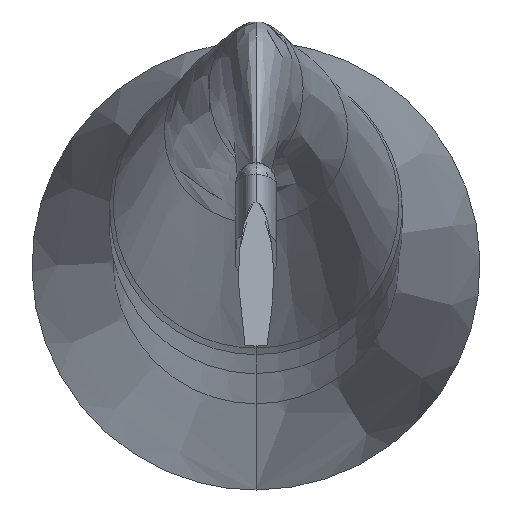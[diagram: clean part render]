
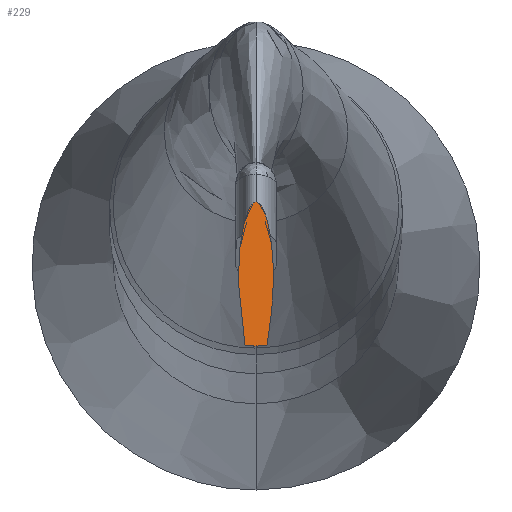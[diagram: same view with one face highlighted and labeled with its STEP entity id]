
A CAD part, left-side view. The second image highlights one B-rep face of the part: STEP entity #229.
In plain terms, the highlighted free-form (B-spline) face has degree [3, 3] with [6, 4] control points.
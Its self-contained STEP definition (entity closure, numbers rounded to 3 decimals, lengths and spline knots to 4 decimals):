
#229=ADVANCED_FACE('',(#291),#258,.F.);
#258=B_SPLINE_SURFACE_WITH_KNOTS('',3,3,((#71318,#71319,#71320,#71321),
(#71322,#71323,#71324,#71325),(#71326,#71327,#71328,#71329),(#71330,#71331,
#71332,#71333),(#71334,#71335,#71336,#71337),(#71338,#71339,#71340,#71341)),
 .UNSPECIFIED.,.F.,.F.,.F.,(4,2,4),(4,4),(0.,0.5,1.),(0.,1.),
 .UNSPECIFIED.);
#291=FACE_OUTER_BOUND('',#324,.T.);
#324=EDGE_LOOP('',(#432,#433,#434,#435));
#432=ORIENTED_EDGE('',*,*,#568,.T.);
#433=ORIENTED_EDGE('',*,*,#573,.F.);
#434=ORIENTED_EDGE('',*,*,#574,.F.);
#435=ORIENTED_EDGE('',*,*,#557,.T.);
#499=VERTEX_POINT('',#7171);
#500=VERTEX_POINT('',#7176);
#506=VERTEX_POINT('',#39152);
#510=VERTEX_POINT('',#71299);
#557=EDGE_CURVE('',#500,#499,#625,.T.);
#568=EDGE_CURVE('',#499,#506,#636,.T.);
#573=EDGE_CURVE('',#510,#506,#641,.T.);
#574=EDGE_CURVE('',#500,#510,#642,.T.);
#625=B_SPLINE_CURVE_WITH_KNOTS('',3,(#7172,#7173,#7174,#7175),
 .UNSPECIFIED.,.F.,.F.,(4,4),(0.,1.),.UNSPECIFIED.);
#636=B_SPLINE_CURVE_WITH_KNOTS('',3,(#39154,#39155,#39156,#39157),
 .UNSPECIFIED.,.F.,.F.,(4,4),(0.,1.),.UNSPECIFIED.);
#641=B_SPLINE_CURVE_WITH_KNOTS('',3,(#71279,#71280,#71281,#71282,#71283,
#71284,#71285,#71286,#71287,#71288,#71289,#71290,#71291,#71292,#71293,#71294,
#71295,#71296,#71297,#71298),.UNSPECIFIED.,.F.,.F.,(4,2,2,2,2,2,2,2,2,4),
(0.,0.0156,0.0313,0.0625,0.125,
0.25,0.375,0.5,0.75,
1.),.UNSPECIFIED.);
#642=B_SPLINE_CURVE_WITH_KNOTS('',3,(#71300,#71301,#71302,#71303,#71304,
#71305,#71306,#71307,#71308,#71309,#71310,#71311,#71312,#71313,#71314,#71315,
#71316,#71317),.UNSPECIFIED.,.F.,.F.,(4,2,2,2,2,2,2,2,4),(0.,0.25,
0.5,0.625,0.75,0.875,
0.9375,0.9688,1.),.UNSPECIFIED.);
#7171=CARTESIAN_POINT('',(171.2809,0.,-3.2681));
#7172=CARTESIAN_POINT('',(171.2833,0.3755,-3.2465));
#7173=CARTESIAN_POINT('',(171.2817,0.2508,-3.2609));
#7174=CARTESIAN_POINT('',(171.2809,0.1256,-3.2681));
#7175=CARTESIAN_POINT('',(171.2809,0.,-3.2681));
#7176=CARTESIAN_POINT('',(171.2832,0.3755,-3.2465));
#39152=CARTESIAN_POINT('',(171.2832,-0.3755,-3.2465));
#39154=CARTESIAN_POINT('',(171.2809,0.,-3.2681));
#39155=CARTESIAN_POINT('',(171.2809,-0.1256,-3.2681));
#39156=CARTESIAN_POINT('',(171.2817,-0.2508,-3.2609));
#39157=CARTESIAN_POINT('',(171.2833,-0.3755,-3.2465));
#71279=CARTESIAN_POINT('',(171.8355,0.,1.657));
#71280=CARTESIAN_POINT('',(171.835,-0.027,1.6529));
#71281=CARTESIAN_POINT('',(171.8341,-0.0528,1.6446));
#71282=CARTESIAN_POINT('',(171.8314,-0.1014,1.6199));
#71283=CARTESIAN_POINT('',(171.8295,-0.1218,1.6025));
#71284=CARTESIAN_POINT('',(171.8229,-0.1769,1.5428));
#71285=CARTESIAN_POINT('',(171.8179,-0.2046,1.4973));
#71286=CARTESIAN_POINT('',(171.802,-0.2771,1.3537));
#71287=CARTESIAN_POINT('',(171.7909,-0.3132,1.2535));
#71288=CARTESIAN_POINT('',(171.7571,-0.4094,0.9504));
#71289=CARTESIAN_POINT('',(171.7337,-0.4524,0.7412));
#71290=CARTESIAN_POINT('',(171.6867,-0.5233,0.3231));
#71291=CARTESIAN_POINT('',(171.6631,-0.5493,0.1138));
#71292=CARTESIAN_POINT('',(171.6157,-0.5878,-0.305));
#71293=CARTESIAN_POINT('',(171.592,-0.6017,-0.5146));
#71294=CARTESIAN_POINT('',(171.5207,-0.6155,-1.1441));
#71295=CARTESIAN_POINT('',(171.473,-0.5888,-1.5647));
#71296=CARTESIAN_POINT('',(171.3779,-0.4973,-2.407));
#71297=CARTESIAN_POINT('',(171.3306,-0.4367,-2.827));
#71298=CARTESIAN_POINT('',(171.2833,-0.3756,-3.2465));
#71299=CARTESIAN_POINT('',(171.8354,0.,1.657));
#71300=CARTESIAN_POINT('',(171.2833,0.3756,-3.2465));
#71301=CARTESIAN_POINT('',(171.3304,0.4364,-2.8289));
#71302=CARTESIAN_POINT('',(171.3774,0.4967,-2.4113));
#71303=CARTESIAN_POINT('',(171.472,0.588,-1.5736));
#71304=CARTESIAN_POINT('',(171.5196,0.6153,-1.1533));
#71305=CARTESIAN_POINT('',(171.5916,0.602,-0.5182));
#71306=CARTESIAN_POINT('',(171.6156,0.5879,-0.3061));
#71307=CARTESIAN_POINT('',(171.6634,0.5491,0.1163));
#71308=CARTESIAN_POINT('',(171.6871,0.5227,0.327));
#71309=CARTESIAN_POINT('',(171.7342,0.4516,0.7454));
#71310=CARTESIAN_POINT('',(171.7575,0.4086,0.954));
#71311=CARTESIAN_POINT('',(171.7913,0.3118,1.2574));
#71312=CARTESIAN_POINT('',(171.8024,0.2755,1.3576));
#71313=CARTESIAN_POINT('',(171.8181,0.2032,1.4998));
#71314=CARTESIAN_POINT('',(171.8231,0.1754,1.5447));
#71315=CARTESIAN_POINT('',(171.8317,0.1025,1.6231));
#71316=CARTESIAN_POINT('',(171.8346,0.0534,1.6488));
#71317=CARTESIAN_POINT('',(171.8355,0.,1.657));
#71318=CARTESIAN_POINT('',(170.9856,0.7309,-5.8754));
#71319=CARTESIAN_POINT('',(170.9854,0.2845,-5.8809));
#71320=CARTESIAN_POINT('',(170.9849,-0.1618,-5.8863));
#71321=CARTESIAN_POINT('',(170.9843,-0.6081,-5.8917));
#71322=CARTESIAN_POINT('',(171.1356,0.7147,-4.559));
#71323=CARTESIAN_POINT('',(171.1352,0.2684,-4.5645));
#71324=CARTESIAN_POINT('',(171.1344,-0.178,-4.5699));
#71325=CARTESIAN_POINT('',(171.1338,-0.6243,-4.5753));
#71326=CARTESIAN_POINT('',(171.2836,0.6985,-3.2424));
#71327=CARTESIAN_POINT('',(171.2831,0.2522,-3.2479));
#71328=CARTESIAN_POINT('',(171.2823,-0.1941,-3.2533));
#71329=CARTESIAN_POINT('',(171.2818,-0.6405,-3.2587));
#71330=CARTESIAN_POINT('',(171.5808,0.6662,-0.6094));
#71331=CARTESIAN_POINT('',(171.5803,0.2199,-0.6148));
#71332=CARTESIAN_POINT('',(171.5795,-0.2265,-0.6202));
#71333=CARTESIAN_POINT('',(171.5789,-0.6728,-0.6256));
#71334=CARTESIAN_POINT('',(171.7318,0.65,0.7069));
#71335=CARTESIAN_POINT('',(171.7319,0.2037,0.7014));
#71336=CARTESIAN_POINT('',(171.731,-0.2426,0.696));
#71337=CARTESIAN_POINT('',(171.7298,-0.689,0.6907));
#71338=CARTESIAN_POINT('',(171.8753,0.6338,2.024));
#71339=CARTESIAN_POINT('',(171.8751,0.1875,2.0185));
#71340=CARTESIAN_POINT('',(171.8745,-0.2588,2.0131));
#71341=CARTESIAN_POINT('',(171.8739,-0.7051,2.0077));
